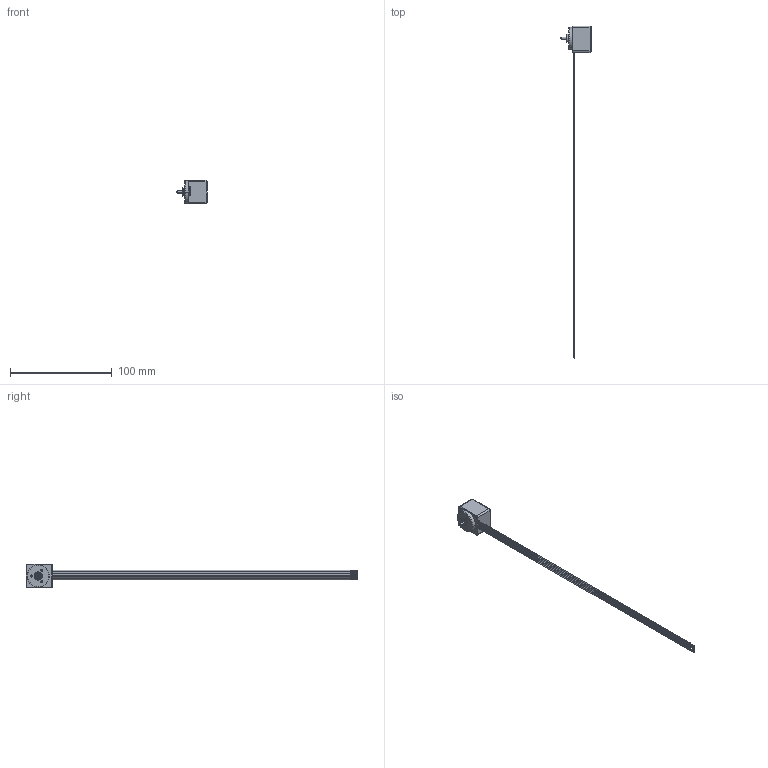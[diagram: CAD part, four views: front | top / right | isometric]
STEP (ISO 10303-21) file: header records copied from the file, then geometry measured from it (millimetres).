
FILE_DESCRIPTION((''),'2;1');
FILE_NAME('1135059','2010-03-11T',('MMAGBRD'),(''),'PRO/ENGINEER BY PARAMETRIC TECHNOLOGY CORPORATION, 2009230','PRO/ENGINEER BY PARAMETRIC TECHNOLOGY CORPORATION, 2009230','');
FILE_SCHEMA(('CONFIG_CONTROL_DESIGN'));
Length unit declared in the file: millimetre
Products named in the file (1): 1135059
Bounding box: 29.5 x 326 x 23 mm (x, y, z)
Volume: 13592.4 mm3; surface area: 8018.9 mm2
Topology: 1 solids, 4 shells, 100 faces, 218 edges, 135 vertices
Faces by surface type: cylinder 56, plane 26, torus 8, cone 6, bspline 4
Entity records: 2852 total; most frequent: CARTESIAN_POINT 556, DIRECTION 530, ORIENTED_EDGE 412, AXIS2_PLACEMENT_3D 227, EDGE_CURVE 212, VERTEX_POINT 135, CIRCLE 130, EDGE_LOOP 121
